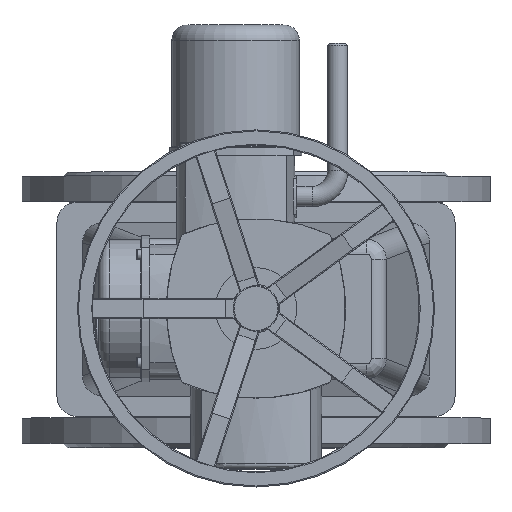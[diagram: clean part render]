
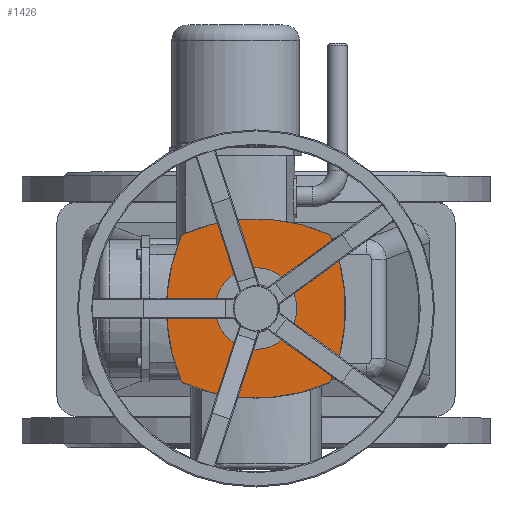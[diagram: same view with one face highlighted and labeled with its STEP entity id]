
A CAD part, top view. The second image highlights one B-rep face of the part: STEP entity #1426.
In plain terms, the highlighted planar face has unit normal (0, 0, 1).
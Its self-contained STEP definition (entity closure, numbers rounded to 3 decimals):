
#1426=ADVANCED_FACE('',(#5236,#5238),#5240,.T.);
#5236=FACE_BOUND('',#5237,.T.);
#5237=EDGE_LOOP('',(#8403,#8404,#8405,#8406));
#5238=FACE_BOUND('',#5239,.T.);
#5239=EDGE_LOOP('',(#8407));
#5240=PLANE('',#5241);
#5241=AXIS2_PLACEMENT_3D('',#5242,#5243,#5244);
#5242=CARTESIAN_POINT('',(0.,0.,802.));
#5243=DIRECTION('',(0.,0.,1.));
#5244=DIRECTION('',(0.,1.,0.));
#8403=ORIENTED_EDGE('',*,*,#9802,.T.);
#8404=ORIENTED_EDGE('',*,*,#9807,.T.);
#8405=ORIENTED_EDGE('',*,*,#9793,.T.);
#8406=ORIENTED_EDGE('',*,*,#9784,.T.);
#8407=ORIENTED_EDGE('',*,*,#9808,.F.);
#9784=EDGE_CURVE('',#10877,#10875,#10878,.T.);
#9793=EDGE_CURVE('',#10893,#10877,#10894,.T.);
#9802=EDGE_CURVE('',#10875,#10906,#10908,.T.);
#9807=EDGE_CURVE('',#10906,#10893,#10917,.T.);
#9808=EDGE_CURVE('',#10918,#10918,#10919,.T.);
#10875=VERTEX_POINT('',#13542);
#10877=VERTEX_POINT('',#13546);
#10878=CIRCLE('',#13547,180.);
#10893=VERTEX_POINT('',#13671);
#10894=CIRCLE('',#13672,180.);
#10906=VERTEX_POINT('',#13786);
#10908=CIRCLE('',#13790,180.);
#10917=CIRCLE('',#13975,180.);
#10918=VERTEX_POINT('',#13979);
#10919=CIRCLE('',#13980,40.);
#13542=CARTESIAN_POINT('',(-72.478,-72.478,802.));
#13546=CARTESIAN_POINT('',(-72.478,72.478,802.));
#13547=AXIS2_PLACEMENT_3D('',#13548,#13549,#13550);
#13548=CARTESIAN_POINT('',(92.285,0.,802.));
#13549=DIRECTION('',(0.,0.,1.));
#13550=DIRECTION('',(-0.915,0.403,0.));
#13671=CARTESIAN_POINT('',(72.478,72.478,802.));
#13672=AXIS2_PLACEMENT_3D('',#13673,#13674,#13675);
#13673=CARTESIAN_POINT('',(0.,-92.285,802.));
#13674=DIRECTION('',(0.,0.,1.));
#13675=DIRECTION('',(0.403,0.915,0.));
#13786=CARTESIAN_POINT('',(72.478,-72.478,802.));
#13790=AXIS2_PLACEMENT_3D('',#13791,#13792,#13793);
#13791=CARTESIAN_POINT('',(0.,92.285,802.));
#13792=DIRECTION('',(0.,0.,1.));
#13793=DIRECTION('',(-0.403,-0.915,0.));
#13975=AXIS2_PLACEMENT_3D('',#13976,#13977,#13978);
#13976=CARTESIAN_POINT('',(-92.285,0.,802.));
#13977=DIRECTION('',(0.,0.,1.));
#13978=DIRECTION('',(0.915,-0.403,0.));
#13979=CARTESIAN_POINT('',(0.,40.,802.));
#13980=AXIS2_PLACEMENT_3D('',#13981,#13982,#13983);
#13981=CARTESIAN_POINT('',(0.,0.,802.));
#13982=DIRECTION('',(0.,0.,1.));
#13983=DIRECTION('',(0.,1.,0.));
